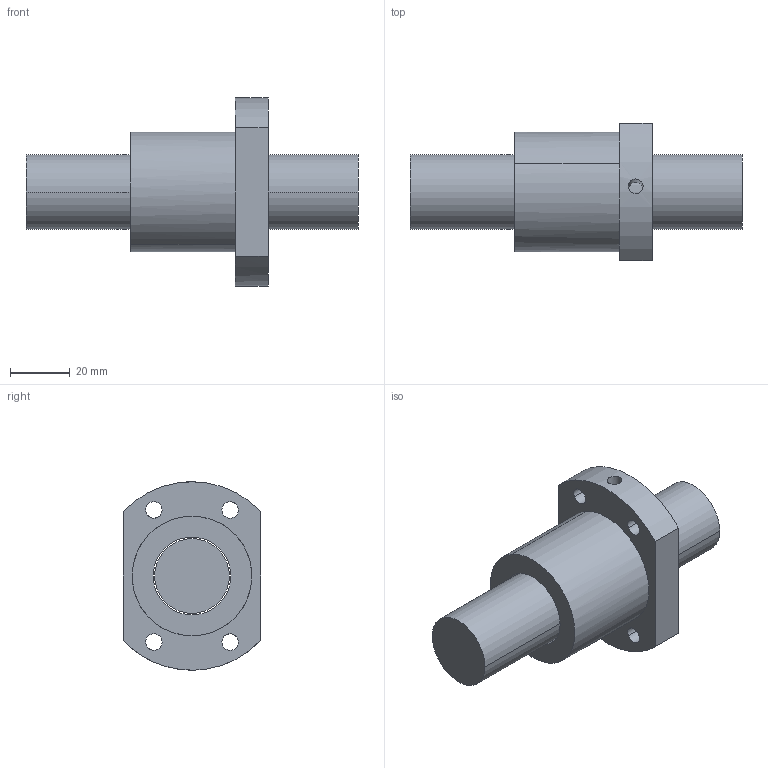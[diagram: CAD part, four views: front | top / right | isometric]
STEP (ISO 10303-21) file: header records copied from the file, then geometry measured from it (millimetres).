
FILE_DESCRIPTION(('CATIA V5 STEP Exchange'),'2;1');
FILE_NAME('C:\Users\aa\Documents\이댈\볼스크류\SFDR\완성품\SFD2504D.stp','2019-07-24T04:41:57+00:00',('none'),('none'),'CATIA Version 5 Release 20 SP 7 (IN-10)','CATIA V5 STEP AP203','none');
FILE_SCHEMA(('CONFIG_CONTROL_DESIGN'));
Length unit declared in the file: millimetre
Products named in the file (1): SFD2504D
Bounding box: 111 x 46 x 63 mm (x, y, z)
Volume: 100371.9 mm3; surface area: 25199.3 mm2
Topology: 2 solids, 2 shells, 37 faces, 84 edges, 56 vertices
Faces by surface type: cylinder 26, plane 11
Entity records: 1241 total; most frequent: CARTESIAN_POINT 379, ORIENTED_EDGE 168, DIRECTION 137, EDGE_CURVE 84, AXIS2_PLACEMENT_3D 72, VERTEX_POINT 56, EDGE_LOOP 54, ADVANCED_FACE 37
